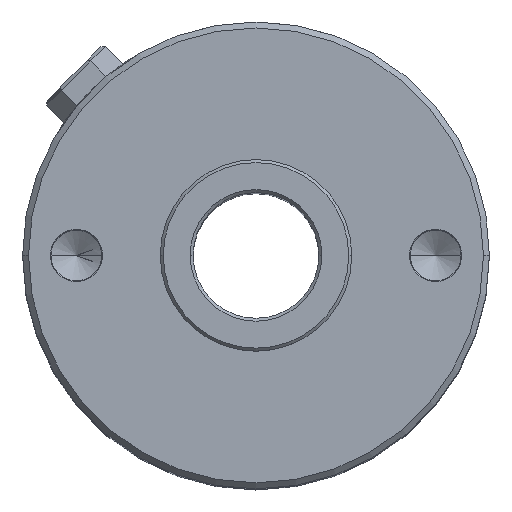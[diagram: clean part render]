
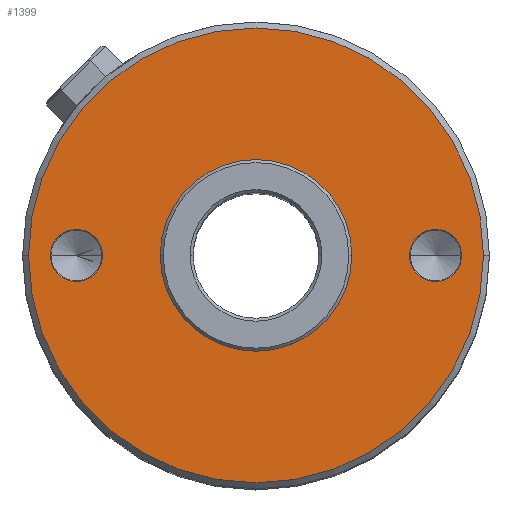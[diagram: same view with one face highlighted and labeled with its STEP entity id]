
A CAD part, top view. The second image highlights one B-rep face of the part: STEP entity #1399.
In plain terms, the highlighted planar face has unit normal (0, 0, 1).
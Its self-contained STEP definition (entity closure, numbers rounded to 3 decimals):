
#89 = DIRECTION ( 'NONE',  ( 1., 0., 0. ) ) ;
#115 = AXIS2_PLACEMENT_3D ( 'NONE', #604, #1286, #1770 ) ;
#116 = CIRCLE ( 'NONE', #1603, 4.35 ) ;
#117 = CARTESIAN_POINT ( 'NONE',  ( 0., 0., 110. ) ) ;
#130 = CIRCLE ( 'NONE', #544, 16. ) ;
#150 = EDGE_CURVE ( 'NONE', #1979, #598, #302, .T. ) ;
#191 = FACE_OUTER_BOUND ( 'NONE', #703, .T. ) ;
#225 = CARTESIAN_POINT ( 'NONE',  ( -30., 0., 110. ) ) ;
#235 = DIRECTION ( 'NONE',  ( 0., 0., -1. ) ) ;
#250 = DIRECTION ( 'NONE',  ( 1., 0., 0. ) ) ;
#302 = CIRCLE ( 'NONE', #478, 4.35 ) ;
#304 = DIRECTION ( 'NONE',  ( 0., 0., 1. ) ) ;
#339 = CIRCLE ( 'NONE', #763, 4.35 ) ;
#364 = DIRECTION ( 'NONE',  ( 1., 0., 0. ) ) ;
#371 = CIRCLE ( 'NONE', #691, 38. ) ;
#373 = DIRECTION ( 'NONE',  ( 0., 0., 1. ) ) ;
#377 = DIRECTION ( 'NONE',  ( 0., 0., 1. ) ) ;
#387 = CARTESIAN_POINT ( 'NONE',  ( -30., 0., 110. ) ) ;
#439 = CARTESIAN_POINT ( 'NONE',  ( 0., 0., 110. ) ) ;
#478 = AXIS2_PLACEMENT_3D ( 'NONE', #2025, #2075, #1882 ) ;
#488 = CARTESIAN_POINT ( 'NONE',  ( -34.35, 0., 110. ) ) ;
#522 = PLANE ( 'NONE',  #2051 ) ;
#544 = AXIS2_PLACEMENT_3D ( 'NONE', #1105, #377, #250 ) ;
#580 = AXIS2_PLACEMENT_3D ( 'NONE', #117, #304, #89 ) ;
#598 = VERTEX_POINT ( 'NONE', #915 ) ;
#604 = CARTESIAN_POINT ( 'NONE',  ( 0., 0., 110. ) ) ;
#607 = CARTESIAN_POINT ( 'NONE',  ( 0., 0., 110. ) ) ;
#618 = EDGE_CURVE ( 'NONE', #2070, #882, #1037, .T. ) ;
#649 = VERTEX_POINT ( 'NONE', #1740 ) ;
#660 = EDGE_CURVE ( 'NONE', #1473, #2082, #130, .T. ) ;
#691 = AXIS2_PLACEMENT_3D ( 'NONE', #607, #726, #1935 ) ;
#703 = EDGE_LOOP ( 'NONE', ( #1756, #1818 ) ) ;
#705 = CIRCLE ( 'NONE', #1181, 4.35 ) ;
#709 = DIRECTION ( 'NONE',  ( 1., 0., 0. ) ) ;
#726 = DIRECTION ( 'NONE',  ( 0., 0., 1. ) ) ;
#733 = EDGE_CURVE ( 'NONE', #598, #1979, #339, .T. ) ;
#754 = CARTESIAN_POINT ( 'NONE',  ( 16., 0., 110. ) ) ;
#763 = AXIS2_PLACEMENT_3D ( 'NONE', #1022, #1565, #1591 ) ;
#859 = ORIENTED_EDGE ( 'NONE', *, *, #954, .T. ) ;
#875 = ORIENTED_EDGE ( 'NONE', *, *, #1081, .F. ) ;
#882 = VERTEX_POINT ( 'NONE', #2017 ) ;
#915 = CARTESIAN_POINT ( 'NONE',  ( 25.65, 0., 110. ) ) ;
#935 = VERTEX_POINT ( 'NONE', #488 ) ;
#954 = EDGE_CURVE ( 'NONE', #935, #649, #705, .T. ) ;
#995 = EDGE_LOOP ( 'NONE', ( #1817, #1764 ) ) ;
#1022 = CARTESIAN_POINT ( 'NONE',  ( 30., 0., 110. ) ) ;
#1037 = CIRCLE ( 'NONE', #115, 38. ) ;
#1081 = EDGE_CURVE ( 'NONE', #2082, #1473, #1200, .T. ) ;
#1105 = CARTESIAN_POINT ( 'NONE',  ( 0., 0., 110. ) ) ;
#1116 = ORIENTED_EDGE ( 'NONE', *, *, #1866, .T. ) ;
#1134 = FACE_BOUND ( 'NONE', #1448, .T. ) ;
#1137 = FACE_BOUND ( 'NONE', #1832, .T. ) ;
#1181 = AXIS2_PLACEMENT_3D ( 'NONE', #225, #235, #1609 ) ;
#1200 = CIRCLE ( 'NONE', #580, 16. ) ;
#1286 = DIRECTION ( 'NONE',  ( 0., 0., 1. ) ) ;
#1331 = CARTESIAN_POINT ( 'NONE',  ( -38., 0., 110. ) ) ;
#1399 = ADVANCED_FACE ( 'NONE', ( #191, #2006, #1137, #1134 ), #522, .T. ) ;
#1448 = EDGE_LOOP ( 'NONE', ( #875, #1773 ) ) ;
#1473 = VERTEX_POINT ( 'NONE', #754 ) ;
#1546 = EDGE_CURVE ( 'NONE', #882, #2070, #371, .T. ) ;
#1565 = DIRECTION ( 'NONE',  ( 0., 0., -1. ) ) ;
#1591 = DIRECTION ( 'NONE',  ( 1., 0., 0. ) ) ;
#1603 = AXIS2_PLACEMENT_3D ( 'NONE', #387, #1765, #709 ) ;
#1609 = DIRECTION ( 'NONE',  ( 1., 0., 0. ) ) ;
#1664 = CARTESIAN_POINT ( 'NONE',  ( -16., 0., 110. ) ) ;
#1722 = CARTESIAN_POINT ( 'NONE',  ( 34.35, 0., 110. ) ) ;
#1740 = CARTESIAN_POINT ( 'NONE',  ( -25.65, 0., 110. ) ) ;
#1756 = ORIENTED_EDGE ( 'NONE', *, *, #618, .T. ) ;
#1764 = ORIENTED_EDGE ( 'NONE', *, *, #733, .T. ) ;
#1765 = DIRECTION ( 'NONE',  ( 0., 0., -1. ) ) ;
#1770 = DIRECTION ( 'NONE',  ( 1., 0., 0. ) ) ;
#1773 = ORIENTED_EDGE ( 'NONE', *, *, #660, .F. ) ;
#1817 = ORIENTED_EDGE ( 'NONE', *, *, #150, .T. ) ;
#1818 = ORIENTED_EDGE ( 'NONE', *, *, #1546, .T. ) ;
#1832 = EDGE_LOOP ( 'NONE', ( #1116, #859 ) ) ;
#1866 = EDGE_CURVE ( 'NONE', #649, #935, #116, .T. ) ;
#1882 = DIRECTION ( 'NONE',  ( 1., 0., 0. ) ) ;
#1935 = DIRECTION ( 'NONE',  ( 1., 0., 0. ) ) ;
#1979 = VERTEX_POINT ( 'NONE', #1722 ) ;
#2006 = FACE_BOUND ( 'NONE', #995, .T. ) ;
#2017 = CARTESIAN_POINT ( 'NONE',  ( 38., 0., 110. ) ) ;
#2025 = CARTESIAN_POINT ( 'NONE',  ( 30., 0., 110. ) ) ;
#2051 = AXIS2_PLACEMENT_3D ( 'NONE', #439, #373, #364 ) ;
#2070 = VERTEX_POINT ( 'NONE', #1331 ) ;
#2075 = DIRECTION ( 'NONE',  ( 0., 0., -1. ) ) ;
#2082 = VERTEX_POINT ( 'NONE', #1664 ) ;
